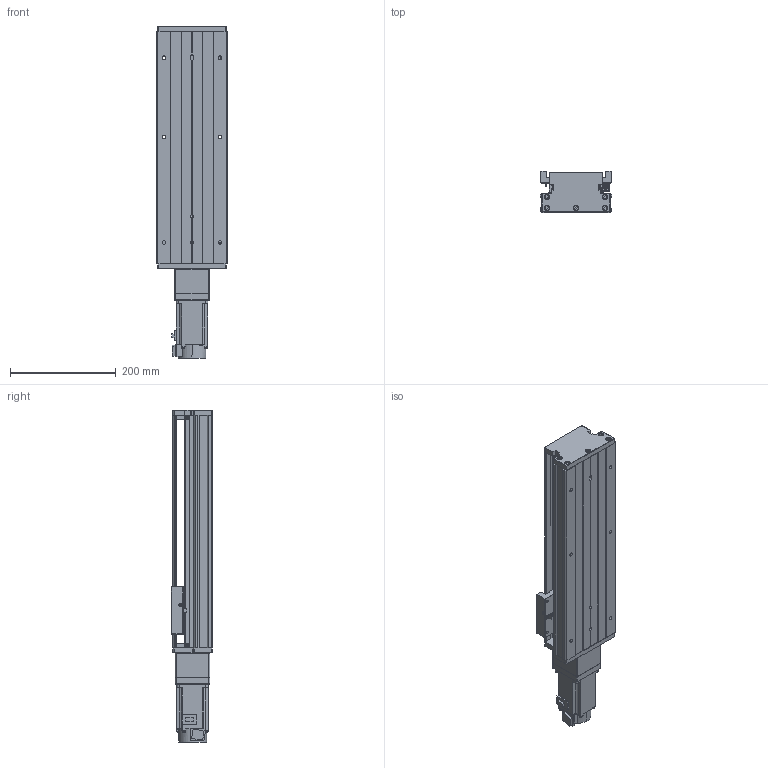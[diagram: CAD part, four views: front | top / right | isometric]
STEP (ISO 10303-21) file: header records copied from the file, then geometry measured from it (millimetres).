
FILE_DESCRIPTION (( 'STEP AP203' ), '1' );
FILE_NAME ('KTH130-300-BC-M40-C4.step', '2023-06-30T03:53:44', ( '微软用户' ), ( '微软中国' ), 'SwSTEP 2.0', 'SolidWorks 2020', '' );
FILE_SCHEMA (( 'CONFIG_CONTROL_DESIGN' ));
Length unit declared in the file: millimetre
Products named in the file (19): GB1155-6X6; GBT77-2000 M3×3; KTH130-300-BC-M40-C4; GBT70.1 M5℅16; す晦芛蹟隊 M3℅5; GBT 70.2-M3¡Á5_M3¡Á6; GBT 70.3-M3℅8; GTH14-001_300; CTHA60-017; CTHA86-006-1_M40; KTH130-002_KTH130-002; EE_SX911P_R; CTHA86-013; KTH130-004; CTHA60-016; CTHA86-027-1; KTH130-005; GBT 70.1-M3℅5; HG-KN43J-S100
Assembly tree (52 placements, depth 2):
  KTH130-300-BC-M40-C4
    GTH14-001_300
    KTH130-002_KTH130-002
    KTH130-004
    KTH130-005
    GB1155-6X6  x2
    GBT70.1 M5℅16  x10
    GBT 70.2-M3¡Á5_M3¡Á6  x4
    CTHA60-017  x3
    EE_SX911P_R  x3
    CTHA60-016  x2
    GBT 70.1-M3℅5  x6
    GBT77-2000 M3×3  x6
    す晦芛蹟隊 M3℅5  x2
    GBT 70.3-M3℅8  x6
    CTHA86-006-1_M40
    CTHA86-013
    CTHA86-027-1
    HG-KN43J-S100
Bounding box: 135 x 78 x 628.7 mm (x, y, z)
Volume: 3188746.9 mm3; surface area: 511519.9 mm2
Topology: 55 solids, 55 shells, 2162 faces, 5230 edges, 3262 vertices
Faces by surface type: plane 1190, cylinder 584, cone 280, torus 96, sphere 12
Entity records: 39266 total; most frequent: CARTESIAN_POINT 8376, DIRECTION 5805, ORIENTED_EDGE 5744, EDGE_CURVE 2872, AXIS2_PLACEMENT_3D 1965, LINE 1875, VECTOR 1875, VERTEX_POINT 1834
